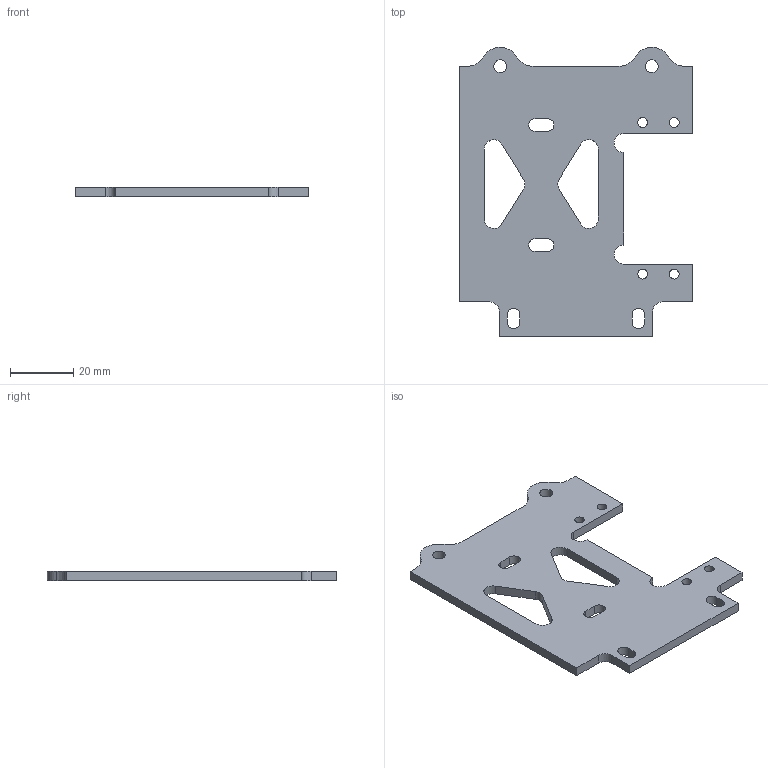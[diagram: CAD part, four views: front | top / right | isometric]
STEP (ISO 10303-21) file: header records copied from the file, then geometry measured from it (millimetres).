
FILE_DESCRIPTION(/* description */ (''),/* implementation_level */ '2;1');
FILE_NAME(/* name */ 'servo_plate_26012016.stp',/* time_stamp */ '2016-01-26T01:27:33+03:00',/* author */ (''),/* organization */ (''),/* preprocessor_version */ 'ST-DEVELOPER v15',/* originating_system */ 'SIEMENS PLM Software NX 9.0',/* authorisation */ '');
FILE_SCHEMA (('AUTOMOTIVE_DESIGN { 1 0 10303 214 3 1 1 1 }'));
Length unit declared in the file: millimetre
Products named in the file (1): c0f007BCC3D27iu5
Bounding box: 74 x 91.6 x 3 mm (x, y, z)
Volume: 13778.6 mm3; surface area: 11138.6 mm2
Topology: 1 solids, 1 shells, 60 faces, 174 edges, 116 vertices
Faces by surface type: plane 30, cylinder 30
Full cylindrical faces by diameter (mm): 3.1 x4, 4.1 x2
Entity records: 2048 total; most frequent: DIRECTION 350, CARTESIAN_POINT 345, ORIENTED_EDGE 336, EDGE_CURVE 168, AXIS2_PLACEMENT_3D 121, VERTEX_POINT 116, LINE 108, VECTOR 108
